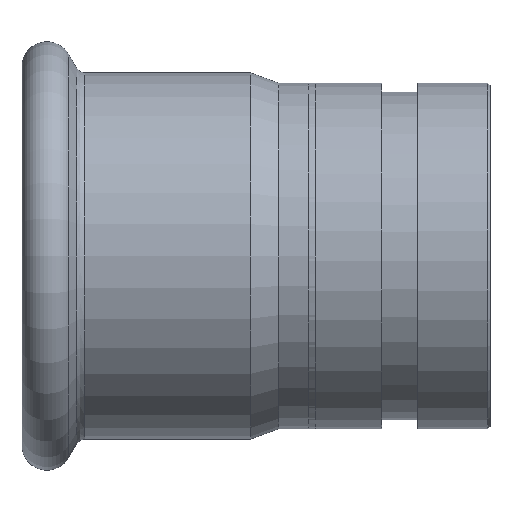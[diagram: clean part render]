
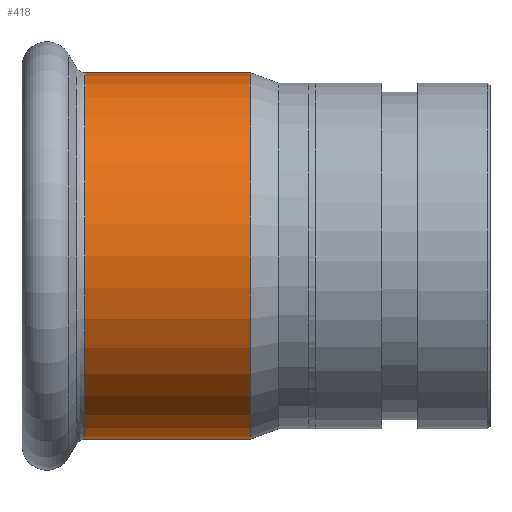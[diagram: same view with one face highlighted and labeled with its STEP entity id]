
A CAD part, front view. The second image highlights one B-rep face of the part: STEP entity #418.
In plain terms, the highlighted cylindrical face has radius 40.3 mm (diameter 80.6 mm), a full revolution.
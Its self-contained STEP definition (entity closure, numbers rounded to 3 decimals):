
#367=CARTESIAN_POINT('',(-50.715,40.3,0.));
#368=VERTEX_POINT('',#367);
#369=CARTESIAN_POINT('',(-50.715,0.,0.0));
#370=DIRECTION('',(-1.0,0.0,0.0));
#371=DIRECTION('',(0.0,-1.0,0.0));
#372=AXIS2_PLACEMENT_3D('',#369,#370,#371);
#373=CIRCLE('',#372,40.3);
#374=EDGE_CURVE('',#368,#368,#373,.T.);
#399=CARTESIAN_POINT('',(-33.009,0.,0.0));
#400=DIRECTION('',(1.0,0.,0.0));
#401=DIRECTION('',(0.0,1.0,0.0));
#402=AXIS2_PLACEMENT_3D('',#399,#400,#401);
#403=CYLINDRICAL_SURFACE('',#402,40.3);
#404=CARTESIAN_POINT('',(-14.147,40.3,0.0));
#405=VERTEX_POINT('',#404);
#406=CARTESIAN_POINT('',(-14.147,0.,0.0));
#407=DIRECTION('',(1.0,0.0,0.0));
#408=DIRECTION('',(0.0,1.0,0.0));
#409=AXIS2_PLACEMENT_3D('',#406,#407,#408);
#410=CIRCLE('',#409,40.3);
#411=EDGE_CURVE('',#405,#405,#410,.T.);
#412=ORIENTED_EDGE('',*,*,#411,.F.);
#413=EDGE_LOOP('',(#412));
#414=FACE_OUTER_BOUND('',#413,.T.);
#415=ORIENTED_EDGE('',*,*,#374,.F.);
#416=EDGE_LOOP('',(#415));
#417=FACE_BOUND('',#416,.T.);
#418=ADVANCED_FACE('',(#414,#417),#403,.T.);
